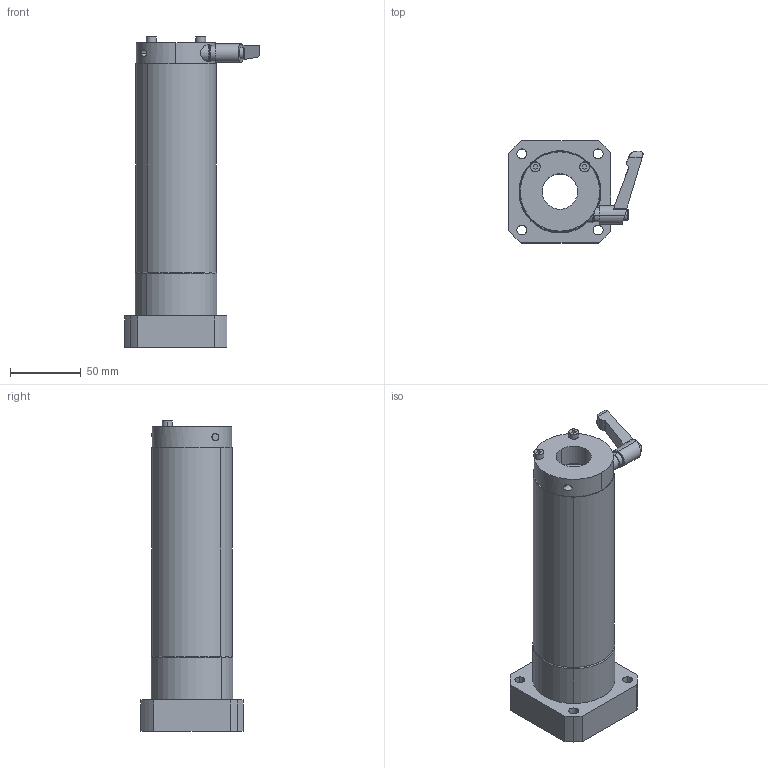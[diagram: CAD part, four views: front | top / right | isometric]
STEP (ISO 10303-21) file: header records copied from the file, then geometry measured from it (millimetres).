
FILE_DESCRIPTION (( 'STEP AP214' ), '1' );
FILE_NAME ('LFWL25AMF-CS.STEP', '2023-06-27T04:25:14', ( '' ), ( '' ), 'SwSTEP 2.0', 'SolidWorks 2019', '' );
FILE_SCHEMA (( 'AUTOMOTIVE_DESIGN' ));
Length unit declared in the file: millimetre
Products named in the file (3): LFWL25AMF; LFWL25AMF-CS; “ÁSCK2515SS-S4.5
Assembly tree (2 placements, depth 2):
  LFWL25AMF-CS
    LFWL25AMF
    “ÁSCK2515SS-S4.5
Bounding box: 94.6 x 72 x 219 mm (x, y, z)
Volume: 494405.9 mm3; surface area: 84371.7 mm2
Topology: 3 solids, 9 shells, 212 faces, 537 edges, 338 vertices
Faces by surface type: cylinder 85, plane 63, bspline 43, cone 13, torus 8
Entity records: 9381 total; most frequent: CARTESIAN_POINT 2021, DIRECTION 1138, ORIENTED_EDGE 1074, EDGE_CURVE 537, AXIS2_PLACEMENT_3D 473, VERTEX_POINT 338, CIRCLE 299, EDGE_LOOP 255
